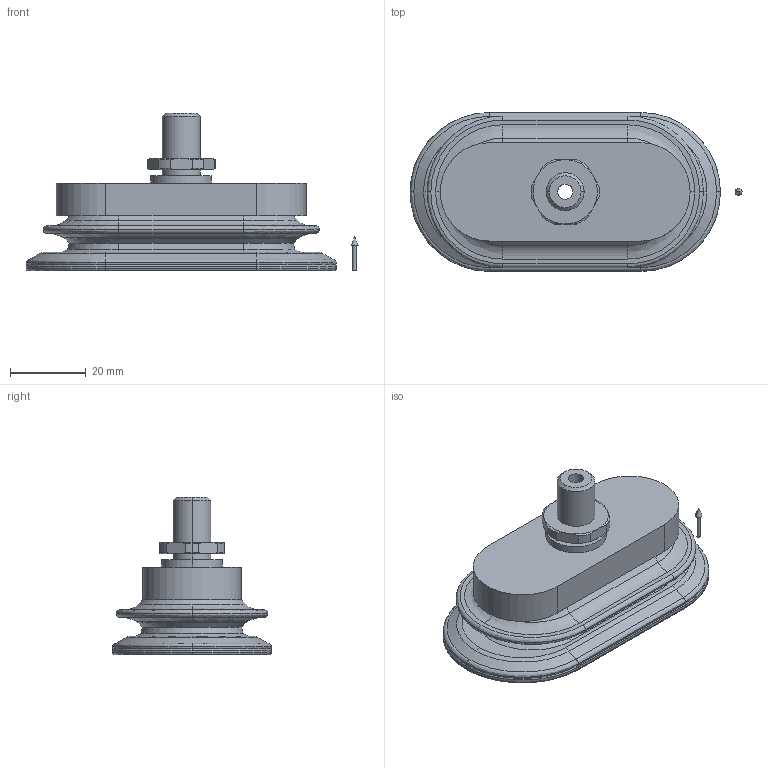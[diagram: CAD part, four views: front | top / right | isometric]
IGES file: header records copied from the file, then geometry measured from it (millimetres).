
Start section: 3D InterOp IGES (v. 2018 1.0.2), Spatial Corp. Copyright (c) 1999-2017.
Global section: file name: schmalz_10_01_06_01026_dav1rv6d7fbb1lk9erc3ytskj.igs; native system: Spatial Corp.; preprocessor: 3D InterOp ACIS/IGES; author: TraceParts; organization: TraceParts S.A.; date: 20181026.042514; units: millimetre
Bounding box: 87.7 x 42 x 41.7 mm (x, y, z)
Surface area: 14465.7 mm2 (no closed solid volume)
Topology: 0 solids, 0 shells, 184 faces, 834 edges, 832 vertices
Faces by surface type: revolution 130, extrusion 54
